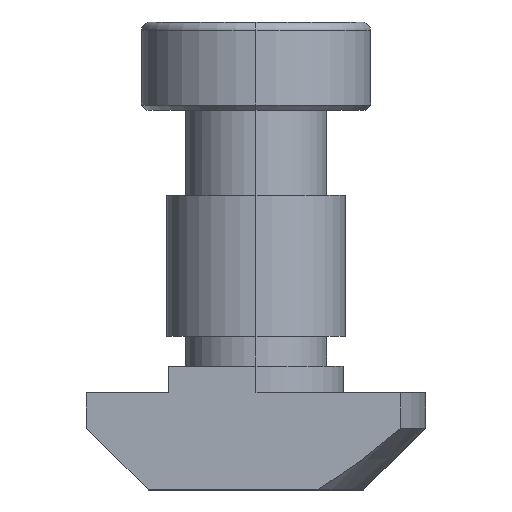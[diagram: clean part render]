
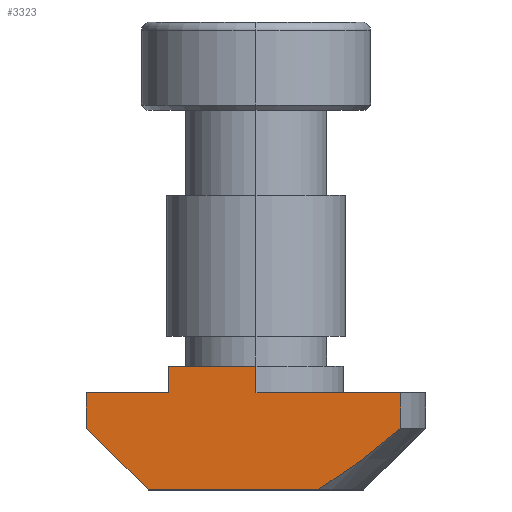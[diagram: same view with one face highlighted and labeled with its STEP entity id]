
A CAD part, left-side view. The second image highlights one B-rep face of the part: STEP entity #3323.
In plain terms, the highlighted planar face has unit normal (-1, 0, 0).
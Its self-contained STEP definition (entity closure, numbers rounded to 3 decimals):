
#16 = DIRECTION ( 'NONE',  ( 0., -1., 0. ) ) ;
#19 = CARTESIAN_POINT ( 'NONE',  ( -4.95, -3.494, -26.5 ) ) ;
#63 = CARTESIAN_POINT ( 'NONE',  ( -4.95, 0., -19.5 ) ) ;
#105 = EDGE_CURVE ( 'NONE', #277, #497, #864, .T. ) ;
#175 = VERTEX_POINT ( 'NONE', #63 ) ;
#255 = CARTESIAN_POINT ( 'NONE',  ( -4.95, 0., -28. ) ) ;
#277 = VERTEX_POINT ( 'NONE', #344 ) ;
#289 = CARTESIAN_POINT ( 'NONE',  ( -4.95, -4.95, -19.5 ) ) ;
#317 = CARTESIAN_POINT ( 'NONE',  ( -4.95, -8.195, -26.501 ) ) ;
#329 = ORIENTED_EDGE ( 'NONE', *, *, #1295, .T. ) ;
#340 = VECTOR ( 'NONE', #795, 1000. ) ;
#344 = CARTESIAN_POINT ( 'NONE',  ( -4.95, 4.95, -19.5 ) ) ;
#402 = VECTOR ( 'NONE', #2604, 1000. ) ;
#408 = B_SPLINE_CURVE_WITH_KNOTS ( 'NONE', 3,
 ( #19, #2369, #2093, #2147, #3226, #1376, #2134, #572 ),
 .UNSPECIFIED., .F., .F.,
 ( 4, 2, 2, 4 ),
 ( 0., 0.001, 0.003, 0.006 ),
 .UNSPECIFIED. ) ;
#445 = DIRECTION ( 'NONE',  ( 0., 0., -1. ) ) ;
#497 = VERTEX_POINT ( 'NONE', #1238 ) ;
#547 = CARTESIAN_POINT ( 'NONE',  ( -4.95, 9.6, -21. ) ) ;
#572 = CARTESIAN_POINT ( 'NONE',  ( -4.95, -8.195, -23. ) ) ;
#720 = AXIS2_PLACEMENT_3D ( 'NONE', #2381, #2102, #16 ) ;
#795 = DIRECTION ( 'NONE',  ( 0., -1., 0. ) ) ;
#802 = DIRECTION ( 'NONE',  ( 0., 0., 1. ) ) ;
#864 = LINE ( 'NONE', #1231, #2170 ) ;
#867 = EDGE_CURVE ( 'NONE', #2056, #2267, #3268, .T. ) ;
#961 = CARTESIAN_POINT ( 'NONE',  ( -4.95, -9.6, -21. ) ) ;
#1154 = ORIENTED_EDGE ( 'NONE', *, *, #3031, .T. ) ;
#1182 = DIRECTION ( 'NONE',  ( 0., -1., 0. ) ) ;
#1199 = CARTESIAN_POINT ( 'NONE',  ( -4.95, 9.6, -23. ) ) ;
#1231 = CARTESIAN_POINT ( 'NONE',  ( -4.95, 4.95, -19.5 ) ) ;
#1238 = CARTESIAN_POINT ( 'NONE',  ( -4.95, 4.95, -21. ) ) ;
#1273 = VERTEX_POINT ( 'NONE', #2180 ) ;
#1295 = EDGE_CURVE ( 'NONE', #2267, #2370, #1679, .T. ) ;
#1320 = VECTOR ( 'NONE', #2983, 1000. ) ;
#1367 = VERTEX_POINT ( 'NONE', #2313 ) ;
#1376 = CARTESIAN_POINT ( 'NONE',  ( -4.95, -6.696, -24.258 ) ) ;
#1419 = ORIENTED_EDGE ( 'NONE', *, *, #2563, .F. ) ;
#1438 = ORIENTED_EDGE ( 'NONE', *, *, #2853, .F. ) ;
#1470 = EDGE_CURVE ( 'NONE', #3061, #2056, #1487, .T. ) ;
#1487 = LINE ( 'NONE', #547, #1320 ) ;
#1553 = CARTESIAN_POINT ( 'NONE',  ( -4.95, 9.6, -21. ) ) ;
#1558 = VECTOR ( 'NONE', #1982, 1000. ) ;
#1600 = PLANE ( 'NONE',  #720 ) ;
#1679 = LINE ( 'NONE', #3193, #340 ) ;
#1723 = CARTESIAN_POINT ( 'NONE',  ( -4.95, -9.6, -21. ) ) ;
#1757 = ORIENTED_EDGE ( 'NONE', *, *, #1470, .T. ) ;
#1784 = LINE ( 'NONE', #961, #402 ) ;
#1916 = VECTOR ( 'NONE', #2566, 1000. ) ;
#1982 = DIRECTION ( 'NONE',  ( 0., -1., 0. ) ) ;
#2000 = CARTESIAN_POINT ( 'NONE',  ( -4.95, 9.6, -23. ) ) ;
#2029 = ORIENTED_EDGE ( 'NONE', *, *, #2677, .T. ) ;
#2056 = VERTEX_POINT ( 'NONE', #1199 ) ;
#2093 = CARTESIAN_POINT ( 'NONE',  ( -4.95, -4.333, -25.99 ) ) ;
#2102 = DIRECTION ( 'NONE',  ( -1., 0., 0. ) ) ;
#2134 = CARTESIAN_POINT ( 'NONE',  ( -4.95, -7.451, -23.636 ) ) ;
#2147 = CARTESIAN_POINT ( 'NONE',  ( -4.95, -5.138, -25.437 ) ) ;
#2170 = VECTOR ( 'NONE', #445, 1000. ) ;
#2180 = CARTESIAN_POINT ( 'NONE',  ( -4.95, 0., -21. ) ) ;
#2207 = VECTOR ( 'NONE', #802, 1000. ) ;
#2267 = VERTEX_POINT ( 'NONE', #2852 ) ;
#2313 = CARTESIAN_POINT ( 'NONE',  ( -4.95, -8.195, -21. ) ) ;
#2348 = CARTESIAN_POINT ( 'NONE',  ( -4.95, -8.195, -23. ) ) ;
#2369 = CARTESIAN_POINT ( 'NONE',  ( -4.95, -3.921, -26.255 ) ) ;
#2370 = VERTEX_POINT ( 'NONE', #3170 ) ;
#2381 = CARTESIAN_POINT ( 'NONE',  ( -4.95, 2.475, -21. ) ) ;
#2387 = ORIENTED_EDGE ( 'NONE', *, *, #2429, .F. ) ;
#2429 = EDGE_CURVE ( 'NONE', #3061, #497, #3130, .T. ) ;
#2435 = EDGE_LOOP ( 'NONE', ( #329, #3102, #2029, #1438, #1154, #1419, #3044, #2387, #1757, #2882 ) ) ;
#2494 = FACE_OUTER_BOUND ( 'NONE', #2435, .T. ) ;
#2563 = EDGE_CURVE ( 'NONE', #277, #175, #3275, .T. ) ;
#2566 = DIRECTION ( 'NONE',  ( 0., 0., 1. ) ) ;
#2604 = DIRECTION ( 'NONE',  ( 0., -1., 0. ) ) ;
#2677 = EDGE_CURVE ( 'NONE', #3151, #1367, #3083, .T. ) ;
#2747 = EDGE_CURVE ( 'NONE', #2370, #3151, #408, .T. ) ;
#2763 = DIRECTION ( 'NONE',  ( 0., -0.707, -0.707 ) ) ;
#2852 = CARTESIAN_POINT ( 'NONE',  ( -4.95, 6.1, -26.5 ) ) ;
#2853 = EDGE_CURVE ( 'NONE', #1273, #1367, #1784, .T. ) ;
#2882 = ORIENTED_EDGE ( 'NONE', *, *, #867, .T. ) ;
#2983 = DIRECTION ( 'NONE',  ( 0., 0., -1. ) ) ;
#3031 = EDGE_CURVE ( 'NONE', #1273, #175, #3346, .T. ) ;
#3044 = ORIENTED_EDGE ( 'NONE', *, *, #105, .T. ) ;
#3061 = VERTEX_POINT ( 'NONE', #1553 ) ;
#3083 = LINE ( 'NONE', #317, #2207 ) ;
#3102 = ORIENTED_EDGE ( 'NONE', *, *, #2747, .T. ) ;
#3130 = LINE ( 'NONE', #1723, #1558 ) ;
#3151 = VERTEX_POINT ( 'NONE', #2348 ) ;
#3166 = VECTOR ( 'NONE', #2763, 1000. ) ;
#3170 = CARTESIAN_POINT ( 'NONE',  ( -4.95, -3.494, -26.5 ) ) ;
#3193 = CARTESIAN_POINT ( 'NONE',  ( -4.95, -9.6, -26.5 ) ) ;
#3226 = CARTESIAN_POINT ( 'NONE',  ( -4.95, -5.532, -25.148 ) ) ;
#3268 = LINE ( 'NONE', #2000, #3166 ) ;
#3275 = LINE ( 'NONE', #289, #3436 ) ;
#3323 = ADVANCED_FACE ( 'NONE', ( #2494 ), #1600, .T. ) ;
#3346 = LINE ( 'NONE', #255, #1916 ) ;
#3436 = VECTOR ( 'NONE', #1182, 1000. ) ;
